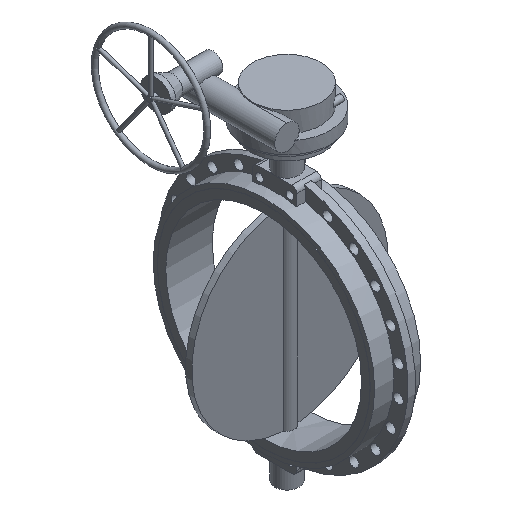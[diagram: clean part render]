
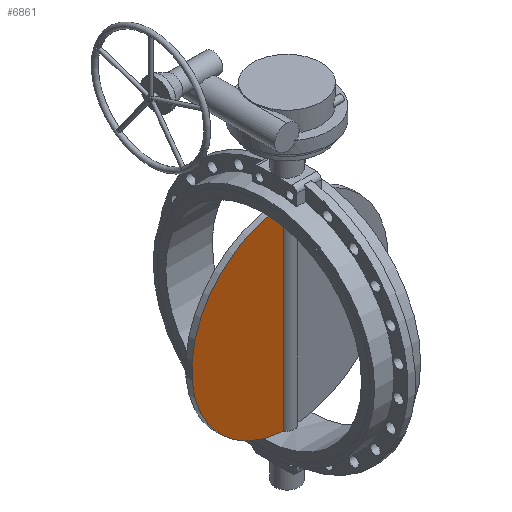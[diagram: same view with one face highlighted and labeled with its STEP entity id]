
A CAD part, isometric view. The second image highlights one B-rep face of the part: STEP entity #6861.
In plain terms, the highlighted planar face has unit normal (0, -1, 0).
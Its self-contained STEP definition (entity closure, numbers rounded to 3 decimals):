
#6861=ADVANCED_FACE('',(#12623),#12625,.T.);
#12623=FACE_BOUND('',#12624,.T.);
#12624=EDGE_LOOP('',(#16913,#16914,#16915,#16916));
#12625=PLANE('',#12626);
#12626=AXIS2_PLACEMENT_3D('',#12627,#12628,#12629);
#12627=CARTESIAN_POINT('',(0.,-12.5,0.));
#12628=DIRECTION('',(0.,-1.,0.));
#12629=DIRECTION('',(0.,0.,1.));
#16913=ORIENTED_EDGE('',*,*,#19082,.T.);
#16914=ORIENTED_EDGE('',*,*,#19064,.T.);
#16915=ORIENTED_EDGE('',*,*,#19081,.T.);
#16916=ORIENTED_EDGE('',*,*,#19078,.T.);
#19064=EDGE_CURVE('',#22594,#22591,#22595,.F.);
#19078=EDGE_CURVE('',#22608,#22620,#22622,.T.);
#19081=EDGE_CURVE('',#22591,#22608,#22626,.T.);
#19082=EDGE_CURVE('',#22620,#22594,#22627,.F.);
#22591=VERTEX_POINT('',#32244);
#22594=VERTEX_POINT('',#32282);
#22595=LINE('',#32283,#32284);
#22608=VERTEX_POINT('',#32458);
#22620=VERTEX_POINT('',#32646);
#22622=LINE('',#32679,#32680);
#22626=CIRCLE('',#32691,401.5);
#22627=LINE('',#32695,#32696);
#32244=CARTESIAN_POINT('',(-36.858,-12.5,399.805));
#32282=CARTESIAN_POINT('',(-27.272,-12.5,399.805));
#32283=CARTESIAN_POINT('',(-36.858,-12.5,399.805));
#32284=VECTOR('',#32285,1.);
#32285=DIRECTION('',(1.,0.,0.));
#32458=CARTESIAN_POINT('',(-36.858,-12.5,-399.805));
#32646=CARTESIAN_POINT('',(-27.272,-12.5,-399.805));
#32679=CARTESIAN_POINT('',(-36.858,-12.5,-399.805));
#32680=VECTOR('',#32681,1.);
#32681=DIRECTION('',(1.,0.,0.));
#32691=AXIS2_PLACEMENT_3D('',#32692,#32693,#32694);
#32692=CARTESIAN_POINT('',(0.,-12.5,0.));
#32693=DIRECTION('',(0.,-1.,0.));
#32694=DIRECTION('',(-0.092,0.,0.996));
#32695=CARTESIAN_POINT('',(-27.272,-12.5,399.805));
#32696=VECTOR('',#32697,1.);
#32697=DIRECTION('',(0.,0.,-1.));
